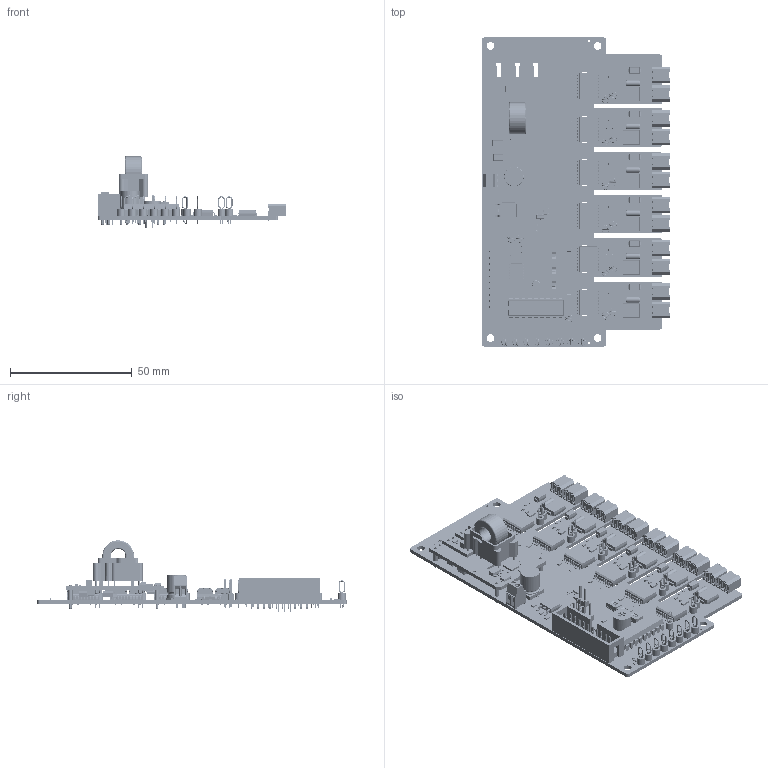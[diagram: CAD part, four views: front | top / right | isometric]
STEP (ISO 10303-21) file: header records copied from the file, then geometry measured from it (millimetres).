
FILE_DESCRIPTION(('for SolidWorks'),'2;1');
FILE_NAME('E:\Google Drive\03 Research & Development Projects\02 Gate Drive Circuit\07 3D Modeling\GDA6SW\STEP\GDA-2A6S1(PX).step', '2015-11-05T20:28:59',('ghayurshah'),(''), 'Open CASCADE STEP processor 6.6','Diptrace','Unknown');
FILE_SCHEMA(('AUTOMOTIVE_DESIGN { 1 0 10303 214 1 1 1 1 }'));
Length unit declared in the file: millimetre
Products named in the file (28): PCB; Board; Model_2; Model_6; Model_13; Model_32; Model_42; Model_44; Model_66; Model_73; Model_80; Model_82; Model_86; Model_88; Model_101; Model_104; Model_151; Model_153; Model_160; Model_164; Model_171; Model_186; Model_188; Model_191; Model_193; Model_200; Model_202; Model_204
Assembly tree (179 placements, depth 2):
  PCB
    Board
    Model_2  x3
    Model_6  x6
    Model_13  x18
    Model_32  x9
    Model_42
    Model_44  x21
    Model_66  x6
    Model_73  x6
    Model_80
    Model_82  x3
    Model_86
    Model_88  x12
    Model_101  x2
    Model_104  x46
    Model_151
    Model_153  x6
    Model_160  x3
    Model_164  x6
    Model_171  x14
    Model_186
    Model_188  x2
    Model_191
    Model_193  x6
    Model_200
    Model_202
    Model_204
Bounding box: 77.25 x 127 x 29.32 mm (x, y, z)
Volume: 13744.3 mm3; surface area: 41526.8 mm2
Topology: 1 solids, 507 shells, 18140 faces, 45190 edges, 28294 vertices
Faces by surface type: plane 11636, bspline 3236, cylinder 2596, sphere 346, torus 200, cone 126
Full cylindrical faces by diameter (mm): 0.5 x3, 1.05 x4, 3.2 x4
Entity records: 239423 total; most frequent: CARTESIAN_POINT 63765, ORIENTED_EDGE 28792, DIRECTION 26197, EDGE_CURVE 14427, LINE 10925, VECTOR 10925, VERTEX_POINT 9076, AXIS2_PLACEMENT_3D 7636
